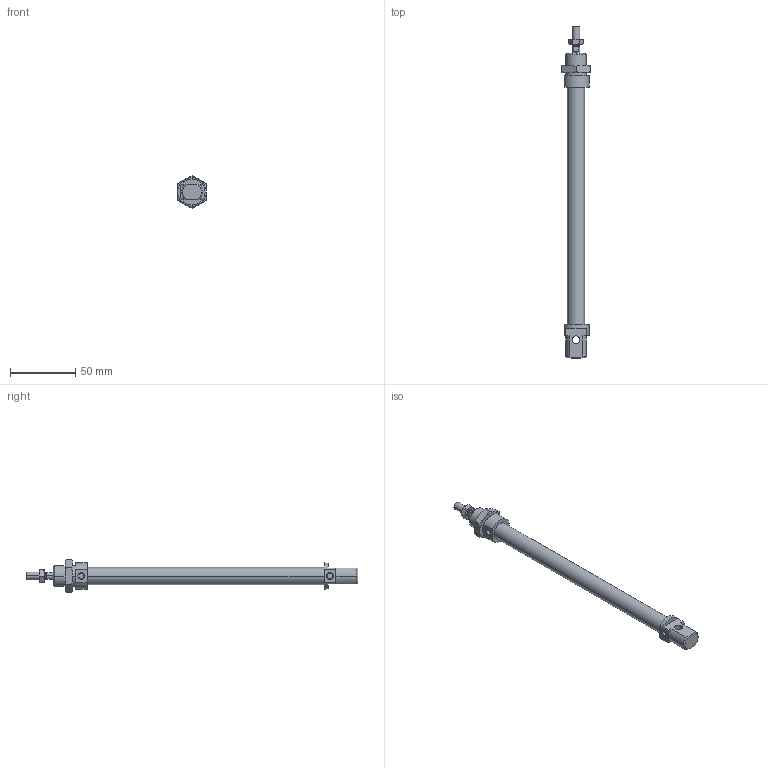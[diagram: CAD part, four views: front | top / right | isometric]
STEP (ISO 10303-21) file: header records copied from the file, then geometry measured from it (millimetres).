
FILE_DESCRIPTION((''),'2;1');
FILE_NAME('I:\DOC-EDP\Lib-3d\1200\CILINDRI\1280\1280_12_0150.stp','2003-04-07T14:50:19',('maffial1'),(''),'Autodesk Inventor (R) 6.0','Autodesk Inventor (R) 6.0','');
FILE_SCHEMA(('AUTOMOTIVE_DESIGN { 1 0 10303 214 1 1 1 1 }'));
Length unit declared in the file: millimetre
Products named in the file (5): 1280_12_0150; S1280_12_150; 1200_12_05; 1200_12_06; C1280_12_150
Assembly tree (4 placements, depth 2):
  1280_12_0150
    S1280_12_150
    1200_12_05
    1200_12_06
    C1280_12_150
Bounding box: 22 x 255 x 25.4 mm (x, y, z)
Volume: 37958.5 mm3; surface area: 20080.5 mm2
Topology: 4 solids, 4 shells, 121 faces, 268 edges, 162 vertices
Faces by surface type: cone 40, plane 39, cylinder 22, bspline 20
Entity records: 3653 total; most frequent: CARTESIAN_POINT 976, DIRECTION 556, ORIENTED_EDGE 536, EDGE_CURVE 268, AXIS2_PLACEMENT_3D 230, VERTEX_POINT 162, EDGE_LOOP 134, FACE_OUTER_BOUND 121
